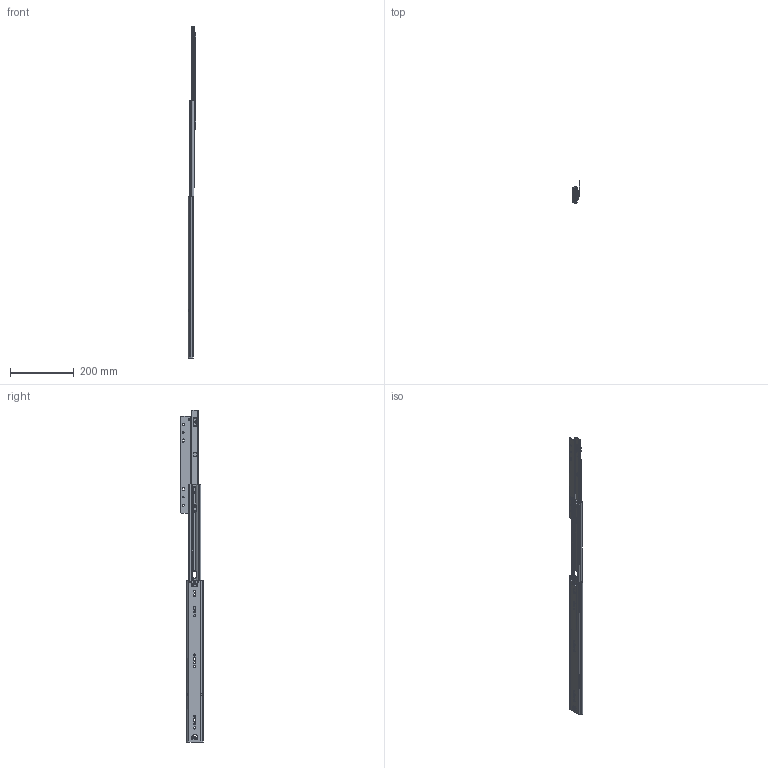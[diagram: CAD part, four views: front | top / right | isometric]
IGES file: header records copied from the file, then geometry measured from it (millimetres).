
Global section: file name: No Iges File Name specified; native system: Autodesk Inventor 2012; preprocessor: AutoDesk Inventor Iges Exporter R2012; author: HV83751; date: 20130708.085034; units: inch
Bounding box: 22.61 x 70.18 x 1041.86 mm (x, y, z)
Surface area: 240238.2 mm2
Topology: 6 solids, 31 shells, 1545 faces, 4553 edges, 2933 vertices
Faces by surface type: plane 779, revolution 400, cylinder 313, bspline 44, torus 9
